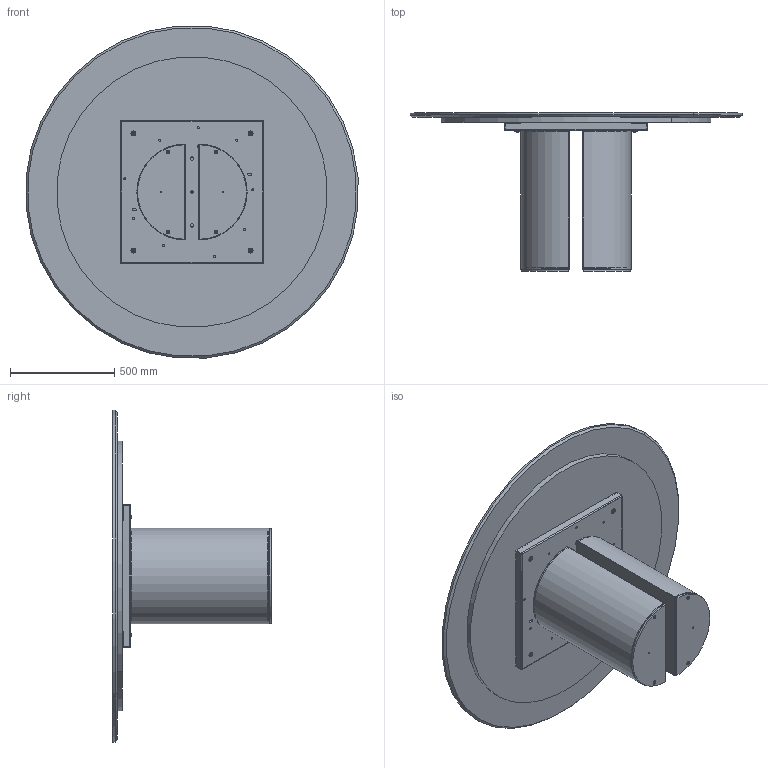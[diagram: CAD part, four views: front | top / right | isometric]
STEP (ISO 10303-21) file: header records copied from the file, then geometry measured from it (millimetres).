
FILE_DESCRIPTION (( 'STEP AP203' ), '1' );
FILE_NAME ('DR08M.STEP', '2024-08-06T13:01:25', ( '' ), ( '' ), 'SwSTEP 2.0', 'SolidWorks 2022', '' );
FILE_SCHEMA (( 'CONFIG_CONTROL_DESIGN' ));
Length unit declared in the file: millimetre
Products named in the file (15): M0X-00- D. piani marmo_D.1600; M8xXXmm_M8x55mm; PLA000000BAS-00-PLAI BASE GREZZA; TTAV0801-02-TELAIO UNIVERSALE TONDO-VASSOIO; M8xXXmm_hex_M8X20mm; PLA000000ZOC-01-PLAI ZOCCOLO DELLA BASE; rondella M8_8X24; TRU0000X-00-SOTTO PIANO D.XXXXmm_TRU00001 d.130cm; COLLO TELAIO UNIVERSALE TTAV0801 CON FERRAMENTA_MTG TOP LEGNO-MARMO-KING; TTAV0801-02-TELAIO UNIVERSALE TONDO; M8xXXmm_hex_M8X60mm; TTAV0801 TELAIO UNIVERSALE TONDO-PIASTRINA; DR08M; M0XMXX-00-Piani Rotondi in marmo 2024_1600; Assieme Basamento PLAI_Basamento per tavoli
Assembly tree (24 placements, depth 4):
  DR08M
    Assieme Basamento PLAI_Basamento per tavoli  x2
      PLA000000BAS-00-PLAI BASE GREZZA
      PLA000000ZOC-01-PLAI ZOCCOLO DELLA BASE
      M8xXXmm_hex_M8X60mm
      M8xXXmm_hex_M8X20mm
    COLLO TELAIO UNIVERSALE TTAV0801 CON FERRAMENTA_MTG TOP LEGNO-MARMO-KING
      TTAV0801-02-TELAIO UNIVERSALE TONDO
        TTAV0801-02-TELAIO UNIVERSALE TONDO-VASSOIO
        TTAV0801 TELAIO UNIVERSALE TONDO-PIASTRINA  x4
      rondella M8_8X24  x4
      M8xXXmm_M8x55mm  x4
    M0XMXX-00-Piani Rotondi in marmo 2024_1600
      M0X-00- D. piani marmo_D.1600
      TRU0000X-00-SOTTO PIANO D.XXXXmm_TRU00001 d.130cm
Bounding box: 1593.91 x 759 x 1593.91 mm (x, y, z)
Volume: 80990224.5 mm3; surface area: 11902860.9 mm2
Topology: 29 solids, 29 shells, 876 faces, 2168 edges, 1337 vertices
Faces by surface type: plane 408, cylinder 318, cone 94, torus 56
Entity records: 17053 total; most frequent: DIRECTION 2760, CARTESIAN_POINT 2646, ORIENTED_EDGE 2514, EDGE_CURVE 1257, AXIS2_PLACEMENT_3D 995, VERTEX_POINT 795, VECTOR 770, LINE 770
